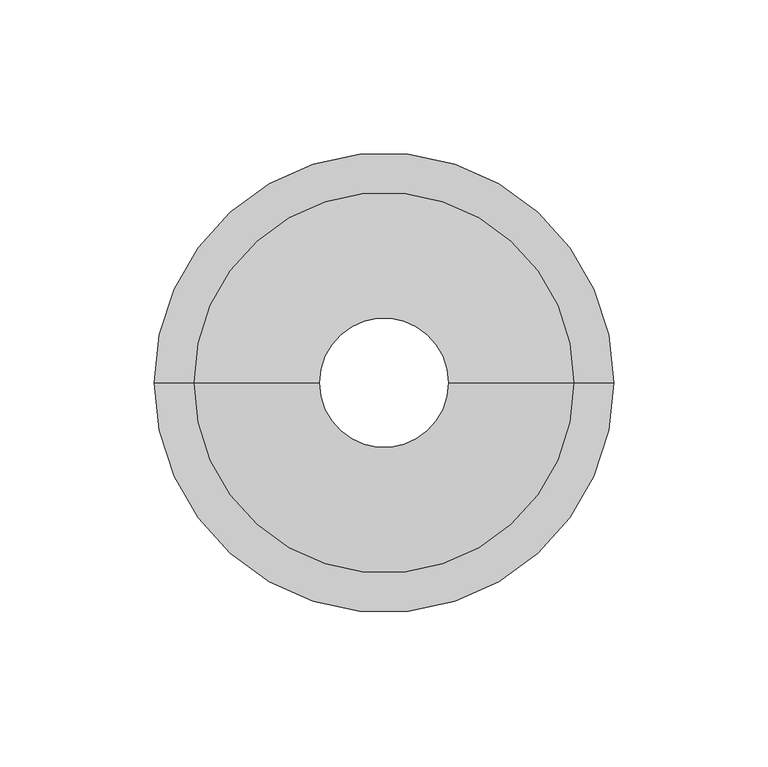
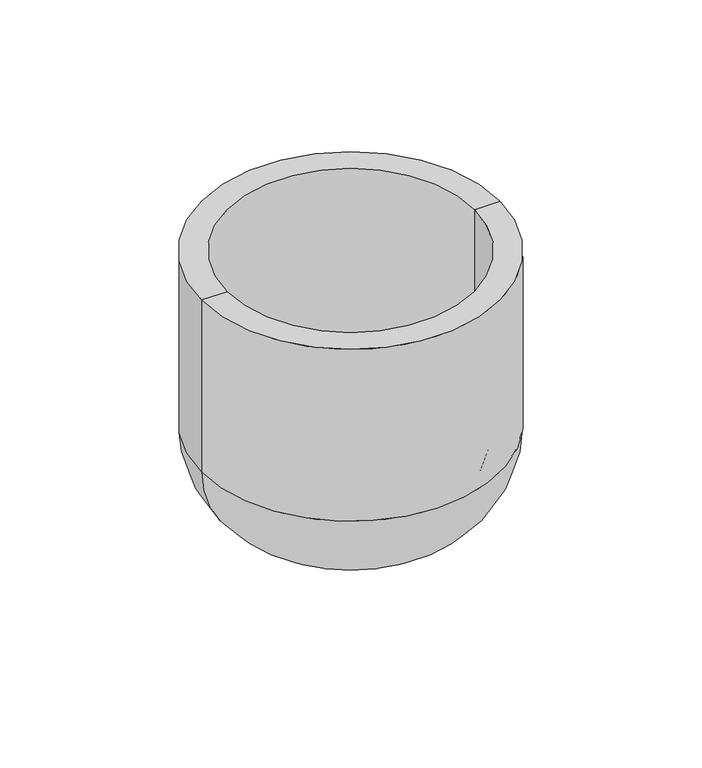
"""IFC4 building model written with IfcOpenShell, lengths in millimetres: proxy geometry, mug Showpeace : mug Showpeace."""

from ifc_helpers import new_model, si_unit, point, frame, origin, place, context, project, spatial, polyline, circle_curve, ellipse_curve, trimmed, source, transform, mapped, element, save
from ifc_brep_helpers import plane_surface, cylinder_surface, revolved_surface, advanced_brep


def generic_models_bc746b38(model_context):
    return source(origin(), model_context, "Body", "AdvancedBrep", [
        advanced_brep(
        [(-133.4918953, 0.0, 869.5821333), (-256.9080063, 0.0, 869.5821333), (-256.9080063, 0.0, 781.5890561), (-133.4918953, 0.0, 781.5890561), (-120.7918953, 0.0, 869.5821333), (-269.6080063, 0.0, 869.5821333), (-120.7918953, 0.0, 779.0335201), (-269.6080063, 0.0, 779.0335201), (-174.2234655, 0.0, 729.19865), (-216.1764362, 0.0, 729.19865), (-216.1764362, 0.0, 740.8574859), (-174.2234655, 0.0, 740.8574859)],
        [
            (0, 1, circle_curve(frame((-195.1999508, 0.0, 869.5821333), z_axis=(0.0, 0.0, 1.0), x_axis=(-1.0, 0.0, 0.0)), 61.7080555)),
            (1, 2),
            (2, 3, circle_curve(frame((-195.1999508, 0.0, 781.5890561), z_axis=(0.0, 0.0, -1.0), x_axis=(-1.0, 0.0, 0.0)), 61.7080555)),
            (3, 0),
            (1, 0, circle_curve(frame((-195.1999508, 0.0, 869.5821333), z_axis=(0.0, 0.0, 1.0), x_axis=(-1.0, 0.0, 0.0)), 61.7080555)),
            (3, 2, circle_curve(frame((-195.1999508, 0.0, 781.5890561), z_axis=(0.0, 0.0, -1.0), x_axis=(-1.0, 0.0, 0.0)), 61.7080555)),
            (4, 5, circle_curve(frame((-195.1999508, 0.0, 869.5821333), z_axis=(0.0, 0.0, 1.0), x_axis=(-1.0, 0.0, 0.0)), 74.4080555)),
            (5, 1),
            (0, 4),
            (5, 4, circle_curve(frame((-195.1999508, 0.0, 869.5821333), z_axis=(0.0, 0.0, 1.0), x_axis=(-1.0, 0.0, 0.0)), 74.4080555)),
            (6, 7, circle_curve(frame((-195.1999508, 0.0, 779.0335201), z_axis=(0.0, 0.0, 1.0), x_axis=(-1.0, 0.0, 0.0)), 74.4080555)),
            (7, 5),
            (4, 6),
            (7, 6, circle_curve(frame((-195.1999508, 0.0, 779.0335201), z_axis=(0.0, 0.0, 1.0), x_axis=(-1.0, 0.0, 0.0)), 74.4080555)),
            (8, 9, circle_curve(frame((-195.1999508, 0.0, 729.19865), z_axis=(0.0, 0.0, 1.0), x_axis=(-1.0, 0.0, 0.0)), 20.9764854)),
            (9, 7, circle_curve(frame((-219.6520818, 0.0, 779.0335201), z_axis=(0.0, 1.0, 0.0), x_axis=(1.0, 0.0, 0.0)), 49.9559245)),
            (6, 8, circle_curve(frame((-170.7478198, 0.0, 779.0335201), z_axis=(0.0, 1.0, 0.0), x_axis=(-1.0, 0.0, 0.0)), 49.9559245)),
            (9, 8, circle_curve(frame((-195.1999508, 0.0, 729.19865), z_axis=(0.0, 0.0, 1.0), x_axis=(-1.0, 0.0, 0.0)), 20.9764854)),
            (2, 10, circle_curve(frame((-216.1764362, 0.0, 781.5890561), z_axis=(0.0, -1.0, 0.0), x_axis=(1.0, 0.0, 0.0)), 40.7315701)),
            (10, 11, circle_curve(frame((-195.1999508, 0.0, 740.8574859), z_axis=(0.0, 0.0, -1.0), x_axis=(-1.0, 0.0, 0.0)), 20.9764854)),
            (11, 3, circle_curve(frame((-174.2234655, 0.0, 781.5890561), z_axis=(0.0, -1.0, 0.0), x_axis=(-1.0, 0.0, 0.0)), 40.7315701)),
            (11, 10, circle_curve(frame((-195.1999508, 0.0, 740.8574859), z_axis=(0.0, 0.0, -1.0), x_axis=(-1.0, 0.0, 0.0)), 20.9764854)),
            (10, 9),
            (8, 11),
        ],
        [
            revolved_surface(polyline([(-256.9080063, 0.0, 781.5890561), (-256.9080063, 0.0, 869.5821333)]), (-195.1999508, 0.0, 695.0770647), (0.0, 0.0, -1.0)),
            plane_surface(frame((-195.1999508, 0.0, 869.5821333), z_axis=(0.0, 0.0, 1.0), x_axis=(-1.0, 0.0, 0.0))),
            cylinder_surface(frame((-195.1999508, 0.0, 695.0770647), z_axis=(0.0, 0.0, -1.0), x_axis=(-1.0, 0.0, 0.0)), 74.4080555),
            revolved_surface(trimmed(ellipse_curve(frame((-219.6520818, 0.0, 779.0335201), z_axis=(0.0, -1.0, 0.0), x_axis=(1.0, 0.0, 0.0)), 49.9559245, 49.9559245), [point((-269.6080063, 0.0, 779.0335201))], [point((-216.1764362, 0.0, 729.19865))], True, "CARTESIAN"), (-195.1999508, 0.0, 695.0770647), (0.0, 0.0, -1.0)),
            revolved_surface(trimmed(ellipse_curve(frame((-216.1764362, 0.0, 781.5890561), z_axis=(0.0, 1.0, 0.0), x_axis=(1.0, 0.0, 0.0)), 40.7315701, 40.7315701), [point((-216.1764362, 0.0, 740.8574859))], [point((-256.9080063, 0.0, 781.5890561))], True, "CARTESIAN"), (-195.1999508, 0.0, 695.0770647), (0.0, 0.0, -1.0)),
            revolved_surface(polyline([(-216.1764362, 0.0, 729.19865), (-216.1764362, 0.0, 740.8574859)]), (-195.1999508, 0.0, 695.0770647), (0.0, 0.0, -1.0)),
        ],
        [
            (0, [[1, 2, 3, 4]]),
            (0, [[5, -4, 6, -2]]),
            (1, [[7, 8, -1, 9]]),
            (1, [[10, -9, -5, -8]]),
            (2, [[11, 12, -7, 13]]),
            (2, [[14, -13, -10, -12]]),
            (3, [[15, 16, -11, 17]]),
            (3, [[18, -17, -14, -16]]),
            (4, [[-3, 19, 20, 21]]),
            (4, [[-6, -21, 22, -19]]),
            (5, [[-20, 23, -15, 24]]),
            (5, [[-22, -24, -18, -23]]),
        ],
    ),
    ])


if __name__ == "__main__":
    model = new_model("IFC4")
    model_context = context("Model", 3, world=origin())
    ifc_project = project(units=[si_unit("LENGTHUNIT", "METRE", prefix="MILLI")], contexts=[model_context])
    site = spatial("IfcSite", under=ifc_project)
    building = spatial("IfcBuilding", under=site)
    placement = place(None, origin())
    generic_models_shape = generic_models_bc746b38(model_context)
    element("IfcBuildingElementProxy", 1, Name="mug Showpeace : mug Showpeace", ObjectType="mug Showpeace : mug Showpeace", at=placement, inside=building, context=model_context, shape_type="MappedRepresentation", body=[
        mapped(generic_models_shape, transform((0.0, 0.0, 0.0), x_axis=(1.0, 0.0, 0.0), y_axis=(0.0, 1.0, 0.0), z_axis=(0.0, 0.0, 1.0))),
    ])
    save(model, "model.ifc")
